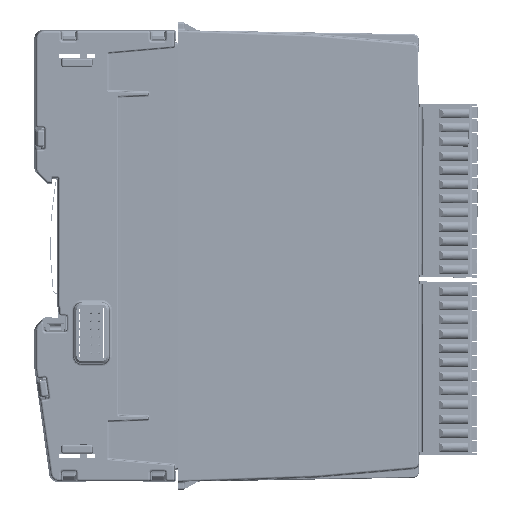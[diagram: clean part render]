
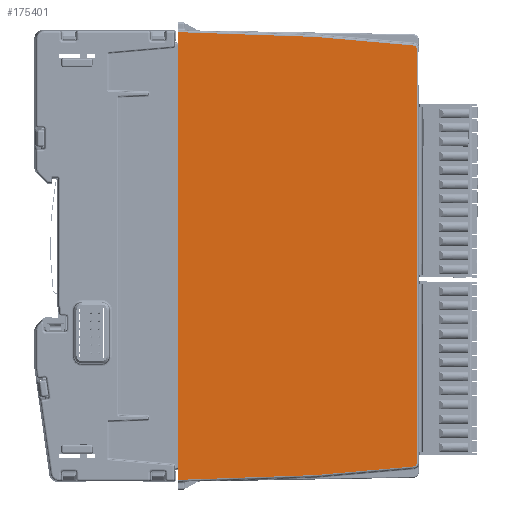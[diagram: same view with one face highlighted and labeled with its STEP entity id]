
A CAD part, left-side view. The second image highlights one B-rep face of the part: STEP entity #175401.
In plain terms, the highlighted planar face has unit normal (-1, -0.018, 0).
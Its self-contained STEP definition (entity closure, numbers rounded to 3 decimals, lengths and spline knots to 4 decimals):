
#5770=ELLIPSE('',#188376,0.0315,0.0315);
#5771=ELLIPSE('',#188377,0.0315,0.0315);
#9541=PLANE('',#188375);
#17402=FACE_OUTER_BOUND('',#27149,.T.);
#27149=EDGE_LOOP('',(#141618,#141619,#141620,#141621,#141622,#141623,#141624,
#141625,#141626,#141627));
#47955=LINE('',#290285,#65171);
#47956=LINE('',#290287,#65172);
#47957=LINE('',#290289,#65173);
#47958=LINE('',#290291,#65174);
#47959=LINE('',#290293,#65175);
#47960=LINE('',#290297,#65176);
#47961=LINE('',#290301,#65177);
#47962=LINE('',#290302,#65178);
#65171=VECTOR('',#222731,39.3701);
#65172=VECTOR('',#222732,39.3701);
#65173=VECTOR('',#222733,39.3701);
#65174=VECTOR('',#222734,39.3701);
#65175=VECTOR('',#222735,39.3701);
#65176=VECTOR('',#222738,39.3701);
#65177=VECTOR('',#222741,39.3701);
#65178=VECTOR('',#222742,39.3701);
#81427=VERTEX_POINT('',#290283);
#81428=VERTEX_POINT('',#290284);
#81429=VERTEX_POINT('',#290286);
#81430=VERTEX_POINT('',#290288);
#81431=VERTEX_POINT('',#290290);
#81432=VERTEX_POINT('',#290292);
#81433=VERTEX_POINT('',#290294);
#81434=VERTEX_POINT('',#290296);
#81435=VERTEX_POINT('',#290298);
#81436=VERTEX_POINT('',#290300);
#102496=EDGE_CURVE('',#81427,#81428,#47955,.T.);
#102497=EDGE_CURVE('',#81429,#81428,#47956,.T.);
#102498=EDGE_CURVE('',#81429,#81430,#47957,.T.);
#102499=EDGE_CURVE('',#81430,#81431,#47958,.T.);
#102500=EDGE_CURVE('',#81431,#81432,#47959,.T.);
#102501=EDGE_CURVE('',#81432,#81433,#5770,.T.);
#102502=EDGE_CURVE('',#81433,#81434,#47960,.T.);
#102503=EDGE_CURVE('',#81434,#81435,#5771,.T.);
#102504=EDGE_CURVE('',#81435,#81436,#47961,.T.);
#102505=EDGE_CURVE('',#81436,#81427,#47962,.T.);
#141618=ORIENTED_EDGE('',*,*,#102496,.T.);
#141619=ORIENTED_EDGE('',*,*,#102497,.F.);
#141620=ORIENTED_EDGE('',*,*,#102498,.T.);
#141621=ORIENTED_EDGE('',*,*,#102499,.T.);
#141622=ORIENTED_EDGE('',*,*,#102500,.T.);
#141623=ORIENTED_EDGE('',*,*,#102501,.T.);
#141624=ORIENTED_EDGE('',*,*,#102502,.T.);
#141625=ORIENTED_EDGE('',*,*,#102503,.T.);
#141626=ORIENTED_EDGE('',*,*,#102504,.T.);
#141627=ORIENTED_EDGE('',*,*,#102505,.T.);
#175401=ADVANCED_FACE('',(#17402),#9541,.T.);
#188375=AXIS2_PLACEMENT_3D('',#290282,#222729,#222730);
#188376=AXIS2_PLACEMENT_3D('',#290295,#222736,#222737);
#188377=AXIS2_PLACEMENT_3D('',#290299,#222739,#222740);
#222729=DIRECTION('center_axis',(-1.,-0.017,
0.));
#222730=DIRECTION('ref_axis',(-0.017,1.,0.));
#222731=DIRECTION('',(0.,0.,-1.));
#222732=DIRECTION('',(0.,0.,1.));
#222733=DIRECTION('',(0.,0.,-1.));
#222734=DIRECTION('',(0.017,-0.999,0.035));
#222735=DIRECTION('',(0.017,-0.996,0.087));
#222736=DIRECTION('center_axis',(-1.,-0.017,
0.));
#222737=DIRECTION('ref_axis',(0.017,-1.,0.));
#222738=DIRECTION('',(0.,0.,1.));
#222739=DIRECTION('center_axis',(-1.,-0.017,
0.));
#222740=DIRECTION('ref_axis',(0.017,-1.,0.));
#222741=DIRECTION('',(-0.017,0.996,0.087));
#222742=DIRECTION('',(-0.017,0.999,0.035));
#290282=CARTESIAN_POINT('Origin',(-0.0296,-0.489,
-2.0669));
#290283=CARTESIAN_POINT('',(-0.0227,-0.8827,0.1083));
#290284=CARTESIAN_POINT('',(-0.0227,-0.8827,-0.0312));
#290285=CARTESIAN_POINT('',(-0.0227,-0.8827,0.128));
#290286=CARTESIAN_POINT('',(-0.0227,-0.8827,-4.1027));
#290287=CARTESIAN_POINT('',(-0.0227,-0.8827,-7.5932));
#290288=CARTESIAN_POINT('',(-0.0227,-0.8827,-4.2421));
#290289=CARTESIAN_POINT('',(-0.0227,-0.8827,0.128));
#290290=CARTESIAN_POINT('',(0.0007,-2.2205,-4.1954));
#290291=CARTESIAN_POINT('',(-0.0282,-0.5654,-4.2532));
#290292=CARTESIAN_POINT('',(0.0174,-3.1772,-4.1117));
#290293=CARTESIAN_POINT('',(-0.0261,-0.6869,-4.3296));
#290294=CARTESIAN_POINT('',(0.0179,-3.2059,-4.0803));
#290295=CARTESIAN_POINT('Origin',(0.0173,-3.1744,
-4.0803));
#290296=CARTESIAN_POINT('',(0.0179,-3.2059,-0.0535));
#290297=CARTESIAN_POINT('',(0.0179,-3.2059,-0.0535));
#290298=CARTESIAN_POINT('',(0.0174,-3.1772,-0.0221));
#290299=CARTESIAN_POINT('Origin',(0.0173,-3.1744,
-0.0535));
#290300=CARTESIAN_POINT('',(0.0007,-2.2205,0.0616));
#290301=CARTESIAN_POINT('',(-0.0261,-0.6869,0.1957));
#290302=CARTESIAN_POINT('',(-0.0282,-0.5654,0.1194));
